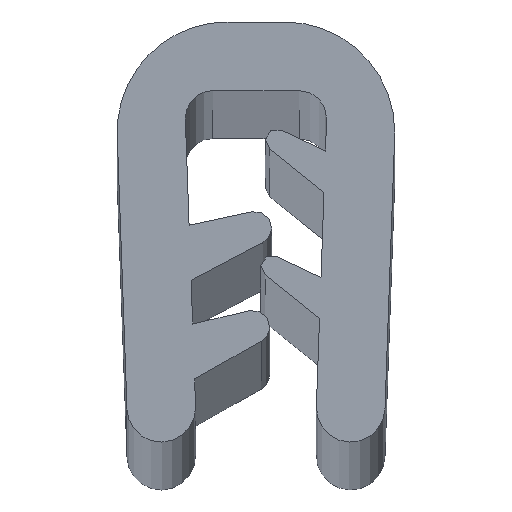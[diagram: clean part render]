
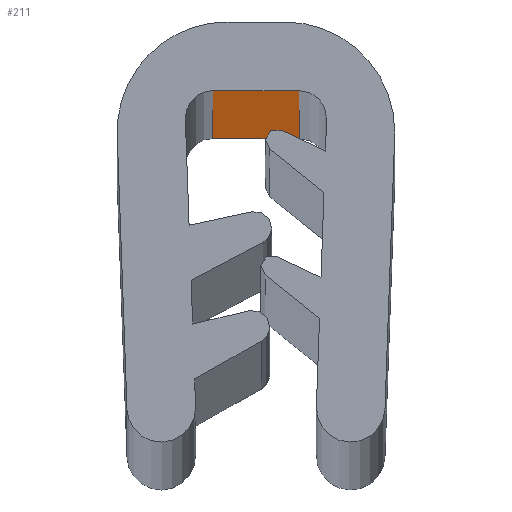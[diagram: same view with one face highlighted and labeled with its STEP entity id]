
A CAD part, top view. The second image highlights one B-rep face of the part: STEP entity #211.
In plain terms, the highlighted planar face has unit normal (0, -1, 0).
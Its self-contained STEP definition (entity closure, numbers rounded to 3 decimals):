
#35 = DIRECTION ( 'NONE',  ( 0., -1., 0. ) ) ;
#73 = DIRECTION ( 'NONE',  ( 0., 0., -1. ) ) ;
#87 = CARTESIAN_POINT ( 'NONE',  ( 1.573, 0., -1000. ) ) ;
#137 = DIRECTION ( 'NONE',  ( 0., 0., 1. ) ) ;
#154 = PLANE ( 'NONE',  #430 ) ;
#188 = CARTESIAN_POINT ( 'NONE',  ( -1.573, 0., -1000. ) ) ;
#211 = ADVANCED_FACE ( 'NONE', ( #679 ), #154, .T. ) ;
#306 = VECTOR ( 'NONE', #137, 1000. ) ;
#307 = LINE ( 'NONE', #87, #306 ) ;
#430 = AXIS2_PLACEMENT_3D ( 'NONE', #188, #35, #73 ) ;
#436 = EDGE_CURVE ( 'NONE', #558, #565, #307, .T. ) ;
#471 = EDGE_CURVE ( 'NONE', #593, #565, #1049, .T. ) ;
#472 = EDGE_CURVE ( 'NONE', #715, #593, #1003, .T. ) ;
#473 = EDGE_CURVE ( 'NONE', #715, #558, #1015, .T. ) ;
#536 = ORIENTED_EDGE ( 'NONE', *, *, #472, .F. ) ;
#558 = VERTEX_POINT ( 'NONE', #769 ) ;
#565 = VERTEX_POINT ( 'NONE', #929 ) ;
#593 = VERTEX_POINT ( 'NONE', #866 ) ;
#638 = ORIENTED_EDGE ( 'NONE', *, *, #436, .T. ) ;
#672 = ORIENTED_EDGE ( 'NONE', *, *, #473, .T. ) ;
#679 = FACE_OUTER_BOUND ( 'NONE', #686, .T. ) ;
#686 = EDGE_LOOP ( 'NONE', ( #1124, #536, #672, #638 ) ) ;
#715 = VERTEX_POINT ( 'NONE', #797 ) ;
#769 = CARTESIAN_POINT ( 'NONE',  ( 1.573, 0., -1000. ) ) ;
#797 = CARTESIAN_POINT ( 'NONE',  ( -1.573, 0., -1000. ) ) ;
#810 = DIRECTION ( 'NONE',  ( 0., 0., 1. ) ) ;
#815 = CARTESIAN_POINT ( 'NONE',  ( -1.573, 0., -1000. ) ) ;
#837 = DIRECTION ( 'NONE',  ( 1., 0., 0. ) ) ;
#866 = CARTESIAN_POINT ( 'NONE',  ( -1.573, 0., 0. ) ) ;
#873 = DIRECTION ( 'NONE',  ( 1., 0., 0. ) ) ;
#929 = CARTESIAN_POINT ( 'NONE',  ( 1.573, 0., 0. ) ) ;
#944 = CARTESIAN_POINT ( 'NONE',  ( -1.573, 0., 0. ) ) ;
#960 = CARTESIAN_POINT ( 'NONE',  ( -1.573, 0., -1000. ) ) ;
#981 = VECTOR ( 'NONE', #810, 1000. ) ;
#1003 = LINE ( 'NONE', #815, #981 ) ;
#1015 = LINE ( 'NONE', #960, #1035 ) ;
#1016 = VECTOR ( 'NONE', #837, 1000. ) ;
#1035 = VECTOR ( 'NONE', #873, 1000. ) ;
#1049 = LINE ( 'NONE', #944, #1016 ) ;
#1124 = ORIENTED_EDGE ( 'NONE', *, *, #471, .F. ) ;
